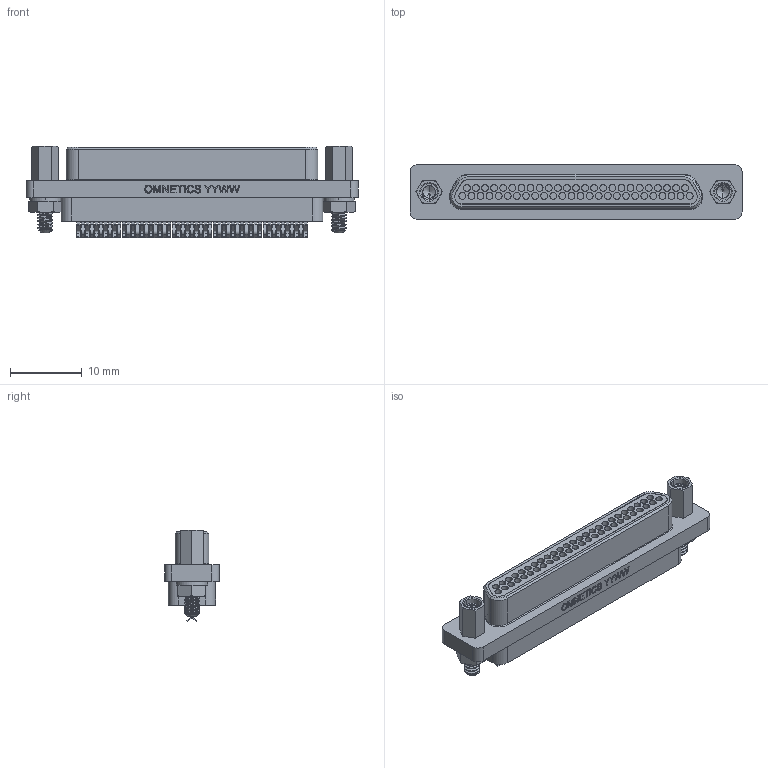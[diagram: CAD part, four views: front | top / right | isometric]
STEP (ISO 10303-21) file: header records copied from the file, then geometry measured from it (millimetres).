
FILE_DESCRIPTION (( 'STEP AP214' ), '1' );
FILE_NAME ('A98062-512 REV A.STEP', '2017-04-19T14:59:38', ( '' ), ( '' ), 'SwSTEP 2.0', 'SolidWorks 2016', '' );
FILE_SCHEMA (( 'AUTOMOTIVE_DESIGN' ));
Length unit declared in the file: inch
Products named in the file (1): A98062-512 REV 1
Bounding box: 46.35 x 7.63 x 12.71 mm (x, y, z)
Volume: 2216.7 mm3; surface area: 4084.9 mm2
Topology: 1 solids, 1 shells, 1628 faces, 4119 edges, 2656 vertices
Faces by surface type: plane 756, cylinder 629, cone 166, bspline 72, torus 5
Entity records: 59337 total; most frequent: CARTESIAN_POINT 20155, ORIENTED_EDGE 8218, DIRECTION 8039, EDGE_CURVE 4109, AXIS2_PLACEMENT_3D 2768, VERTEX_POINT 2656, LINE 2503, VECTOR 2503
